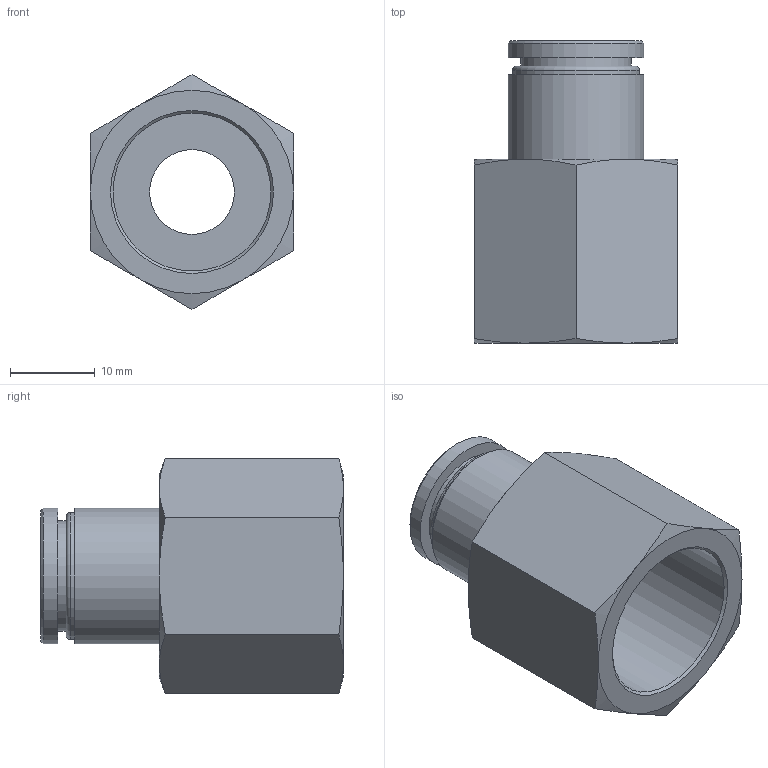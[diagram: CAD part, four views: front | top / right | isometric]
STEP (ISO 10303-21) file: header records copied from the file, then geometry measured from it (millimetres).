
FILE_DESCRIPTION(/* description */ (''),/* implementation_level */ '2;1');
FILE_NAME(/* name */ 'LXH14 0012 B4.stp',/* time_stamp */ '2026-04-27T18:52:44+02:00',/* author */ ('freju'),/* organization */ (''),/* preprocessor_version */ 'ST-DEVELOPER v20.1',/* originating_system */ 'Autodesk Inventor 2026',/* authorisation */ '');
FILE_SCHEMA (('AUTOMOTIVE_DESIGN { 1 0 10303 214 3 1 1 }'));
Length unit declared in the file: millimetre
Products named in the file (1): LXH14 0012 B4
Bounding box: 24 x 35.7 x 27.71 mm (x, y, z)
Volume: 7240.6 mm3; surface area: 5048.5 mm2
Topology: 1 solids, 1 shells, 36 faces, 72 edges, 44 vertices
Faces by surface type: plane 14, cone 14, cylinder 7, torus 1
Full cylindrical faces by diameter (mm): 10 x1, 12 x1, 13 x1, 15 x1, 16 x2, 18.631 x1
Entity records: 956 total; most frequent: CARTESIAN_POINT 201, DIRECTION 155, ORIENTED_EDGE 144, EDGE_CURVE 72, AXIS2_PLACEMENT_3D 70, EDGE_LOOP 44, VERTEX_POINT 44, FACE_OUTER_BOUND 36
